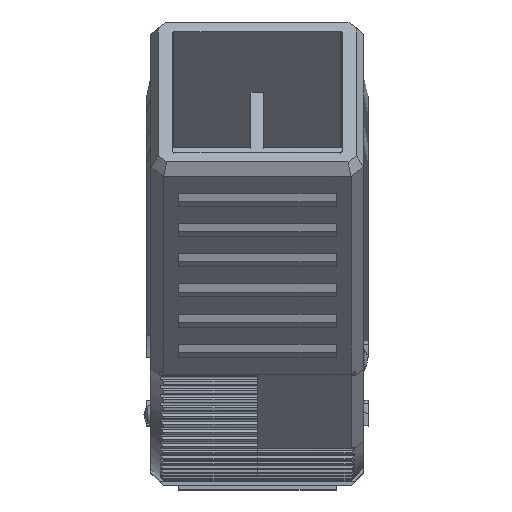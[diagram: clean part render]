
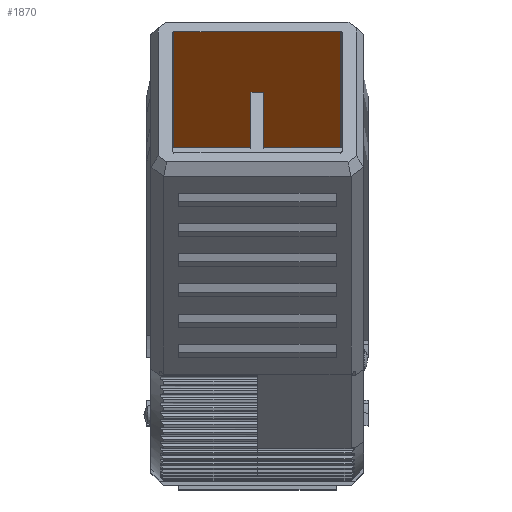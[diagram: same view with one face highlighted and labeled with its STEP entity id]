
A CAD part, top view. The second image highlights one B-rep face of the part: STEP entity #1870.
In plain terms, the highlighted planar face has unit normal (0, -0.707, 0.707) as drawn and (1, 0, 0) by its records, which use the part's own axes.
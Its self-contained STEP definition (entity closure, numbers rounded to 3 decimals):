
#202 = ORIENTED_EDGE ( 'NONE', *, *, #4148, .T. ) ;
#333 = CARTESIAN_POINT ( 'NONE',  ( -10., 3., 9.8 ) ) ;
#1049 = CARTESIAN_POINT ( 'NONE',  ( -10., -24.497, -0.75 ) ) ;
#1299 = DIRECTION ( 'NONE',  ( -1., 0., 0. ) ) ;
#1528 = DIRECTION ( 'NONE',  ( 0., 1., 0. ) ) ;
#1831 = DIRECTION ( 'NONE',  ( 0., 1., 0. ) ) ;
#1870 = ADVANCED_FACE ( 'NONE', ( #15610 ), #5016, .F. ) ;
#1875 = CARTESIAN_POINT ( 'NONE',  ( -10., 35., -9.8 ) ) ;
#2028 = DIRECTION ( 'NONE',  ( 0., 0., 1. ) ) ;
#2577 = CARTESIAN_POINT ( 'NONE',  ( -10., 3., 10. ) ) ;
#2689 = VECTOR ( 'NONE', #6511, 1000. ) ;
#3173 = CARTESIAN_POINT ( 'NONE',  ( -10., 3., 10. ) ) ;
#3302 = VERTEX_POINT ( 'NONE', #6905 ) ;
#3327 = CARTESIAN_POINT ( 'NONE',  ( -10., 3., -0.75 ) ) ;
#3914 = DIRECTION ( 'NONE',  ( 0., 0., 1. ) ) ;
#3972 = EDGE_LOOP ( 'NONE', ( #7364, #15543, #11013, #14548, #9399, #202, #14276, #11095 ) ) ;
#4148 = EDGE_CURVE ( 'NONE', #4899, #13303, #9436, .T. ) ;
#4468 = EDGE_CURVE ( 'NONE', #3302, #13303, #13540, .T. ) ;
#4594 = VECTOR ( 'NONE', #11777, 1000. ) ;
#4723 = VERTEX_POINT ( 'NONE', #6625 ) ;
#4899 = VERTEX_POINT ( 'NONE', #9323 ) ;
#5016 = PLANE ( 'NONE',  #5114 ) ;
#5114 = AXIS2_PLACEMENT_3D ( 'NONE', #2577, #1299, #3914 ) ;
#5303 = CARTESIAN_POINT ( 'NONE',  ( -10., 3., 9.8 ) ) ;
#5744 = CARTESIAN_POINT ( 'NONE',  ( -10., 25., -0.75 ) ) ;
#5905 = VERTEX_POINT ( 'NONE', #3327 ) ;
#6124 = CARTESIAN_POINT ( 'NONE',  ( -10., 3., -9.8 ) ) ;
#6171 = DIRECTION ( 'NONE',  ( 0., 0., 1. ) ) ;
#6511 = DIRECTION ( 'NONE',  ( 0., -1., 0. ) ) ;
#6551 = EDGE_CURVE ( 'NONE', #11419, #4723, #15595, .T. ) ;
#6625 = CARTESIAN_POINT ( 'NONE',  ( -10., 25., 0.75 ) ) ;
#6631 = LINE ( 'NONE', #1049, #8345 ) ;
#6905 = CARTESIAN_POINT ( 'NONE',  ( -10., 3., 0.75 ) ) ;
#6983 = VECTOR ( 'NONE', #6171, 1000. ) ;
#7331 = EDGE_CURVE ( 'NONE', #11676, #5905, #9812, .T. ) ;
#7364 = ORIENTED_EDGE ( 'NONE', *, *, #6551, .F. ) ;
#8345 = VECTOR ( 'NONE', #14558, 1000. ) ;
#8465 = EDGE_CURVE ( 'NONE', #3302, #4723, #14573, .T. ) ;
#8781 = LINE ( 'NONE', #1875, #10923 ) ;
#9323 = CARTESIAN_POINT ( 'NONE',  ( -10., 35., 9.8 ) ) ;
#9330 = VECTOR ( 'NONE', #11843, 1000. ) ;
#9399 = ORIENTED_EDGE ( 'NONE', *, *, #15699, .T. ) ;
#9436 = LINE ( 'NONE', #333, #2689 ) ;
#9504 = CARTESIAN_POINT ( 'NONE',  ( -10., 25., -0.75 ) ) ;
#9812 = LINE ( 'NONE', #3173, #4594 ) ;
#10130 = LINE ( 'NONE', #15507, #9330 ) ;
#10691 = CARTESIAN_POINT ( 'NONE',  ( -10., 35., -9.8 ) ) ;
#10923 = VECTOR ( 'NONE', #1831, 1000. ) ;
#11013 = ORIENTED_EDGE ( 'NONE', *, *, #7331, .F. ) ;
#11015 = EDGE_CURVE ( 'NONE', #5905, #11419, #6631, .T. ) ;
#11095 = ORIENTED_EDGE ( 'NONE', *, *, #8465, .T. ) ;
#11317 = VECTOR ( 'NONE', #1528, 1000. ) ;
#11419 = VERTEX_POINT ( 'NONE', #9504 ) ;
#11676 = VERTEX_POINT ( 'NONE', #6124 ) ;
#11777 = DIRECTION ( 'NONE',  ( 0., 0., 1. ) ) ;
#11843 = DIRECTION ( 'NONE',  ( 0., 0., 1. ) ) ;
#11975 = VERTEX_POINT ( 'NONE', #10691 ) ;
#13303 = VERTEX_POINT ( 'NONE', #5303 ) ;
#13540 = LINE ( 'NONE', #13570, #6983 ) ;
#13570 = CARTESIAN_POINT ( 'NONE',  ( -10., 3., 10. ) ) ;
#13883 = CARTESIAN_POINT ( 'NONE',  ( -10., -24.497, 0.75 ) ) ;
#14060 = EDGE_CURVE ( 'NONE', #11676, #11975, #8781, .T. ) ;
#14276 = ORIENTED_EDGE ( 'NONE', *, *, #4468, .F. ) ;
#14548 = ORIENTED_EDGE ( 'NONE', *, *, #14060, .T. ) ;
#14558 = DIRECTION ( 'NONE',  ( 0., 1., 0. ) ) ;
#14573 = LINE ( 'NONE', #13883, #11317 ) ;
#15228 = VECTOR ( 'NONE', #2028, 1000. ) ;
#15507 = CARTESIAN_POINT ( 'NONE',  ( -10., 35., 10. ) ) ;
#15543 = ORIENTED_EDGE ( 'NONE', *, *, #11015, .F. ) ;
#15595 = LINE ( 'NONE', #5744, #15228 ) ;
#15610 = FACE_OUTER_BOUND ( 'NONE', #3972, .T. ) ;
#15699 = EDGE_CURVE ( 'NONE', #11975, #4899, #10130, .T. ) ;
